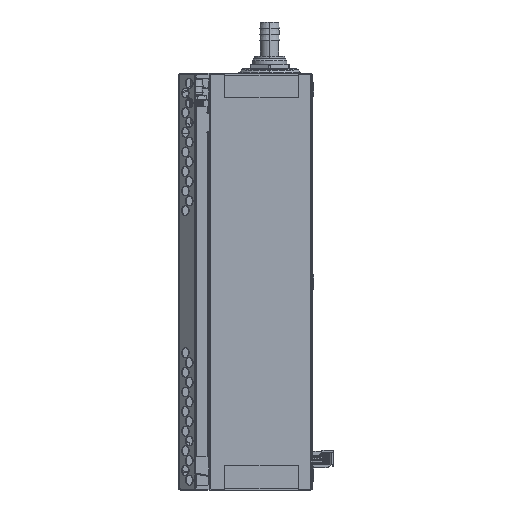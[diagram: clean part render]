
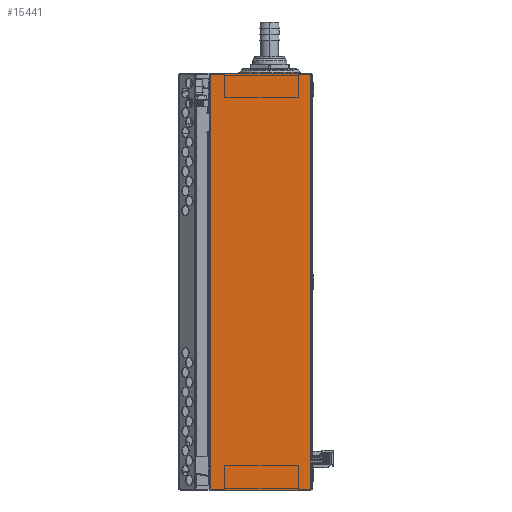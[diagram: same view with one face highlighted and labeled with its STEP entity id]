
A CAD part, left-side view. The second image highlights one B-rep face of the part: STEP entity #15441.
In plain terms, the highlighted planar face has unit normal (-1, 0, 0).
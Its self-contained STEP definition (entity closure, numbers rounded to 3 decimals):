
#4711=CARTESIAN_POINT('',(-260.,1.8,170.));
#4731=DIRECTION('',(0.,0.,1.));
#4732=VECTOR('',#4731,340.);
#4733=CARTESIAN_POINT('',(-260.,1.8,-170.));
#4734=LINE('',#4733,#4732);
#4735=DIRECTION('',(0.,-1.,0.));
#4736=VECTOR('',#4735,81.1);
#4737=CARTESIAN_POINT('',(-260.,82.9,170.));
#4738=LINE('',#4737,#4736);
#4739=DIRECTION('',(0.,1.,0.));
#4740=VECTOR('',#4739,81.1);
#4741=CARTESIAN_POINT('',(-260.,1.8,-170.));
#4742=LINE('',#4741,#4740);
#4743=DIRECTION('',(0.,0.,-1.));
#4744=VECTOR('',#4743,340.);
#4745=CARTESIAN_POINT('',(-260.,82.9,170.));
#4746=LINE('',#4745,#4744);
#6739=CARTESIAN_POINT('',(-260.,1.8,-170.));
#6740=VERTEX_POINT('',#6739);
#6743=VERTEX_POINT('',#4711);
#7682=CARTESIAN_POINT('',(-260.,82.9,170.));
#7683=CARTESIAN_POINT('',(-260.,82.9,-170.));
#7684=VERTEX_POINT('',#7682);
#7685=VERTEX_POINT('',#7683);
#15427=CARTESIAN_POINT('',(-260.,84.5,168.4));
#15428=DIRECTION('',(-1.,0.,0.));
#15429=DIRECTION('',(0.,-1.,0.));
#15430=AXIS2_PLACEMENT_3D('',#15427,#15428,#15429);
#15431=PLANE('',#15430);
#15433=ORIENTED_EDGE('',*,*,#15432,.F.);
#15435=ORIENTED_EDGE('',*,*,#15434,.T.);
#15436=ORIENTED_EDGE('',*,*,#15422,.F.);
#15438=ORIENTED_EDGE('',*,*,#15437,.T.);
#15439=EDGE_LOOP('',(#15433,#15435,#15436,#15438));
#15440=FACE_OUTER_BOUND('',#15439,.F.);
#15441=ADVANCED_FACE('',(#15440),#15431,.T.);
#15422=EDGE_CURVE('',#6740,#6743,#4734,.T.);
#15432=EDGE_CURVE('',#7684,#7685,#4746,.T.);
#15434=EDGE_CURVE('',#7684,#6743,#4738,.T.);
#15437=EDGE_CURVE('',#6740,#7685,#4742,.T.);
